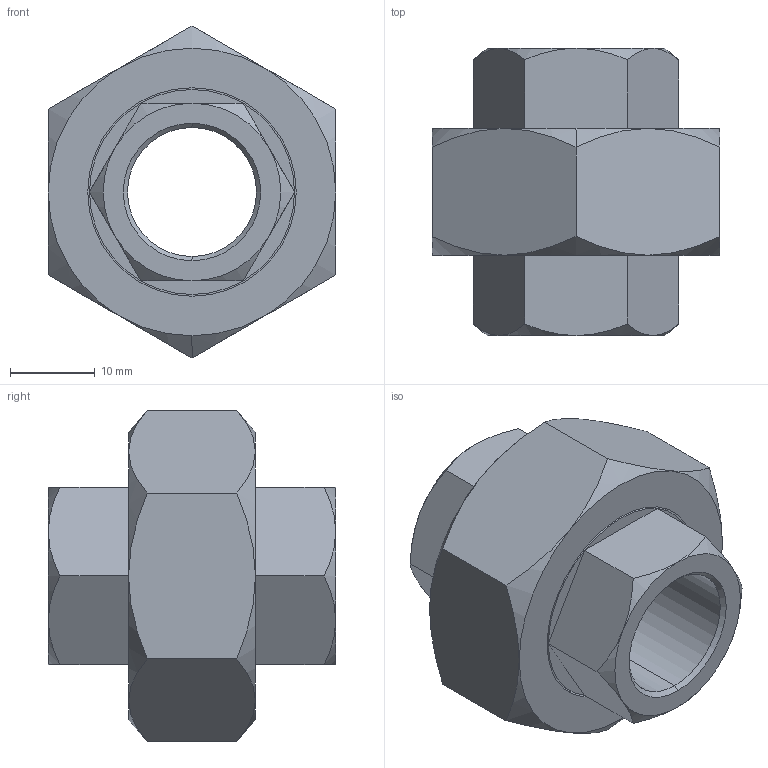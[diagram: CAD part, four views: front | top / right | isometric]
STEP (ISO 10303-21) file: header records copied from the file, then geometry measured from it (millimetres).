
FILE_DESCRIPTION (( 'STEP AP203' ), '1' );
FILE_NAME ('AXH14 B3B3 00.STEP', '2018-11-17T14:28:12', ( '' ), ( '' ), 'SwSTEP 2.0', 'SolidWorks 2013', '' );
FILE_SCHEMA (( 'CONFIG_CONTROL_DESIGN' ));
Length unit declared in the file: millimetre
Products named in the file (1): AXH14 B3B3 00
Bounding box: 34 x 34 x 39.26 mm (x, y, z)
Volume: 15183 mm3; surface area: 7087.2 mm2
Topology: 1 solids, 1 shells, 88 faces, 180 edges, 100 vertices
Faces by surface type: plane 38, cone 34, cylinder 16
Entity records: 2621 total; most frequent: CARTESIAN_POINT 745, DIRECTION 386, ORIENTED_EDGE 360, EDGE_CURVE 180, AXIS2_PLACEMENT_3D 165, VERTEX_POINT 100, EDGE_LOOP 96, ADVANCED_FACE 88
